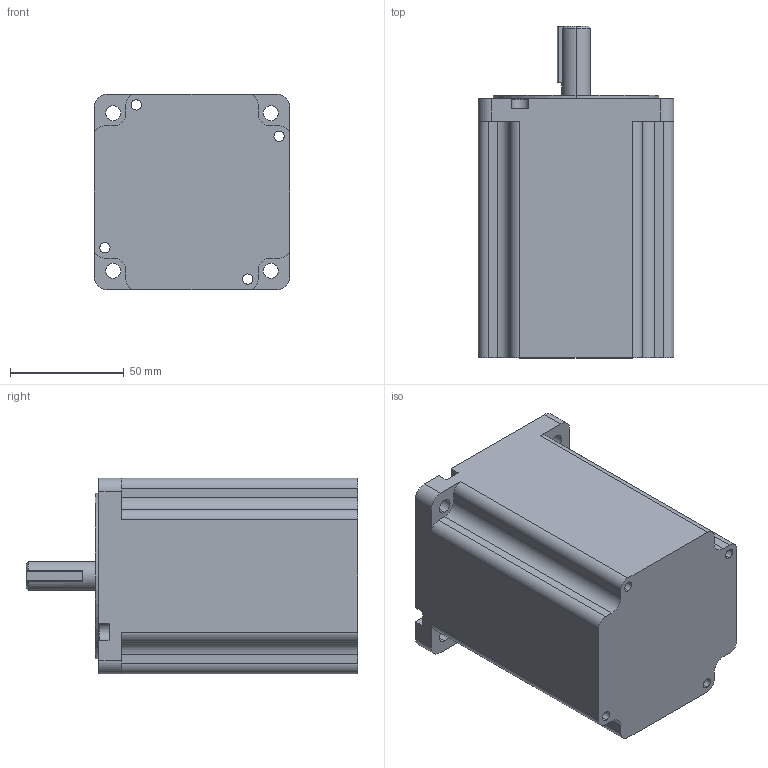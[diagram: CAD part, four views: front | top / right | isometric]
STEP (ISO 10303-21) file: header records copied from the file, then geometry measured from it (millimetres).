
FILE_DESCRIPTION (( 'STEP AP203' ), '1' );
FILE_NAME ('86H2114-6-4A-001.STEP', '2019-05-15T04:24:59', ( '' ), ( '' ), 'SwSTEP 2.0', 'SolidWorks 2017', '' );
FILE_SCHEMA (( 'CONFIG_CONTROL_DESIGN' ));
Length unit declared in the file: millimetre
Products named in the file (1): 86H2114-6-4A-001
Bounding box: 86 x 146 x 86 mm (x, y, z)
Volume: 762742.6 mm3; surface area: 59791.9 mm2
Topology: 1 solids, 1 shells, 103 faces, 278 edges, 179 vertices
Faces by surface type: plane 44, cylinder 43, cone 8, torus 8
Entity records: 3363 total; most frequent: DIRECTION 596, CARTESIAN_POINT 567, ORIENTED_EDGE 556, EDGE_CURVE 278, AXIS2_PLACEMENT_3D 216, VERTEX_POINT 179, VECTOR 164, LINE 164
